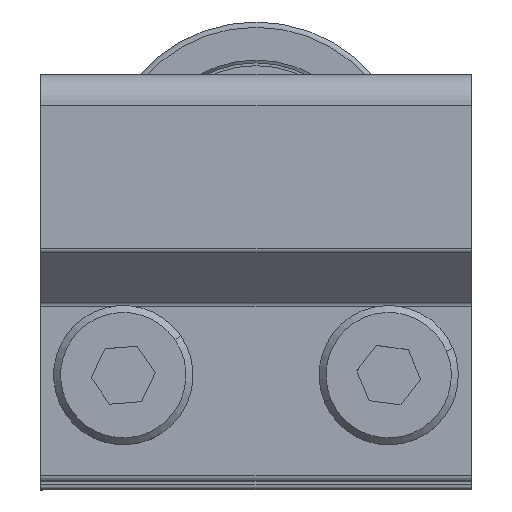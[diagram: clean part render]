
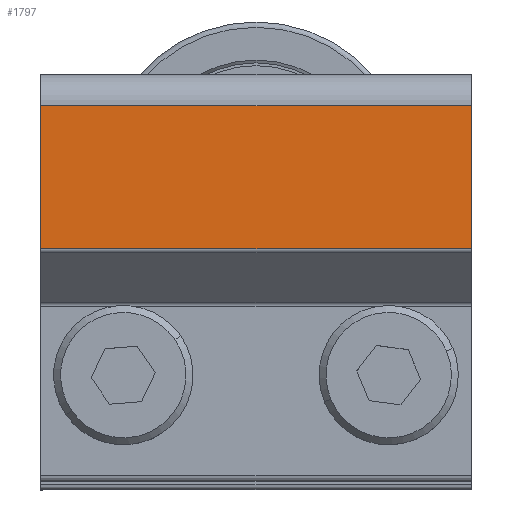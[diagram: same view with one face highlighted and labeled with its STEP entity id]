
A CAD part, top view. The second image highlights one B-rep face of the part: STEP entity #1797.
In plain terms, the highlighted planar face has unit normal (0, 0, 1) as drawn and (1, 0, 0) by its records, which use the part's own axes.
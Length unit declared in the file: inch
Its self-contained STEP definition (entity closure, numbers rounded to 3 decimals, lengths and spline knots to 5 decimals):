
#1275=DIRECTION('',(0.,0.,1.));
#1276=VECTOR('',#1275,1.216);
#1277=CARTESIAN_POINT('',(0.375,0.35921,-0.608));
#1278=LINE('',#1277,#1276);
#1279=DIRECTION('',(0.,-1.,0.));
#1280=VECTOR('',#1279,0.40379);
#1281=CARTESIAN_POINT('',(0.375,0.763,-0.608));
#1282=LINE('',#1281,#1280);
#1360=DIRECTION('',(0.,-1.,0.));
#1361=VECTOR('',#1360,0.40379);
#1362=CARTESIAN_POINT('',(0.375,0.763,0.608));
#1363=LINE('',#1362,#1361);
#1364=DIRECTION('',(0.,0.,-1.));
#1365=VECTOR('',#1364,1.216);
#1366=CARTESIAN_POINT('',(0.375,0.763,0.608));
#1367=LINE('',#1366,#1365);
#1536=CARTESIAN_POINT('',(0.375,0.763,-0.608));
#1537=CARTESIAN_POINT('',(0.375,0.35921,-0.608));
#1538=VERTEX_POINT('',#1536);
#1539=VERTEX_POINT('',#1537);
#1548=CARTESIAN_POINT('',(0.375,0.763,0.608));
#1549=VERTEX_POINT('',#1548);
#1554=CARTESIAN_POINT('',(0.375,0.35921,0.608));
#1555=VERTEX_POINT('',#1554);
#1785=CARTESIAN_POINT('',(0.375,0.763,0.608));
#1786=DIRECTION('',(-1.,0.,0.));
#1787=DIRECTION('',(0.,-1.,0.));
#1788=AXIS2_PLACEMENT_3D('',#1785,#1786,#1787);
#1789=PLANE('',#1788);
#1790=ORIENTED_EDGE('',*,*,#1702,.F.);
#1792=ORIENTED_EDGE('',*,*,#1791,.T.);
#1793=ORIENTED_EDGE('',*,*,#1743,.T.);
#1794=ORIENTED_EDGE('',*,*,#1733,.T.);
#1795=EDGE_LOOP('',(#1790,#1792,#1793,#1794));
#1796=FACE_OUTER_BOUND('',#1795,.F.);
#1702=EDGE_CURVE('',#1549,#1555,#1363,.T.);
#1733=EDGE_CURVE('',#1539,#1555,#1278,.T.);
#1743=EDGE_CURVE('',#1538,#1539,#1282,.T.);
#1791=EDGE_CURVE('',#1549,#1538,#1367,.T.);
#1797=ADVANCED_FACE('',(#1796),#1789,.F.);
